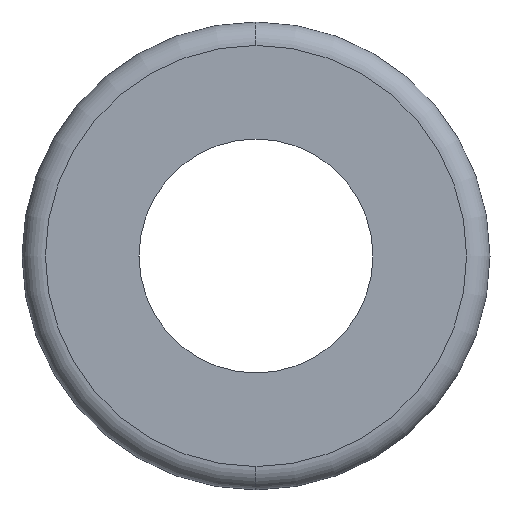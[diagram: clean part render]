
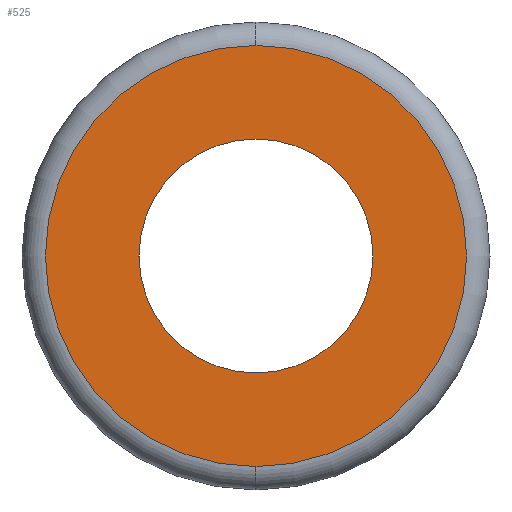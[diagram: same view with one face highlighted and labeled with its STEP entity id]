
A CAD part, left-side view. The second image highlights one B-rep face of the part: STEP entity #525.
In plain terms, the highlighted planar face has unit normal (-1, 0, 0).
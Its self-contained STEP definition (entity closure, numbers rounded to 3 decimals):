
#6 = DIRECTION ( 'NONE',  ( -1., 0., 0. ) ) ;
#10 = CARTESIAN_POINT ( 'NONE',  ( -7.5, 0., -2.5 ) ) ;
#14 = VERTEX_POINT ( 'NONE', #74 ) ;
#15 = AXIS2_PLACEMENT_3D ( 'NONE', #618, #385, #571 ) ;
#38 = EDGE_LOOP ( 'NONE', ( #175, #96 ) ) ;
#41 = AXIS2_PLACEMENT_3D ( 'NONE', #594, #109, #409 ) ;
#74 = CARTESIAN_POINT ( 'NONE',  ( -7.5, 0., 2.5 ) ) ;
#89 = CIRCLE ( 'NONE', #604, 2.5 ) ;
#96 = ORIENTED_EDGE ( 'NONE', *, *, #563, .T. ) ;
#109 = DIRECTION ( 'NONE',  ( 1., 0., 0. ) ) ;
#119 = VERTEX_POINT ( 'NONE', #295 ) ;
#129 = CARTESIAN_POINT ( 'NONE',  ( -7.5, 0., 0. ) ) ;
#146 = PLANE ( 'NONE',  #153 ) ;
#153 = AXIS2_PLACEMENT_3D ( 'NONE', #531, #6, #487 ) ;
#168 = ORIENTED_EDGE ( 'NONE', *, *, #248, .T. ) ;
#173 = EDGE_CURVE ( 'NONE', #605, #14, #89, .T. ) ;
#174 = DIRECTION ( 'NONE',  ( -1., 0., 0. ) ) ;
#175 = ORIENTED_EDGE ( 'NONE', *, *, #444, .T. ) ;
#189 = EDGE_LOOP ( 'NONE', ( #231, #168 ) ) ;
#231 = ORIENTED_EDGE ( 'NONE', *, *, #173, .T. ) ;
#248 = EDGE_CURVE ( 'NONE', #14, #605, #317, .T. ) ;
#278 = DIRECTION ( 'NONE',  ( 1., 0., 0. ) ) ;
#295 = CARTESIAN_POINT ( 'NONE',  ( -7.5, 0., -4.5 ) ) ;
#317 = CIRCLE ( 'NONE', #41, 2.5 ) ;
#320 = CARTESIAN_POINT ( 'NONE',  ( -7.5, 0., 0. ) ) ;
#345 = AXIS2_PLACEMENT_3D ( 'NONE', #320, #174, #414 ) ;
#385 = DIRECTION ( 'NONE',  ( -1., 0., 0. ) ) ;
#389 = CARTESIAN_POINT ( 'NONE',  ( -7.5, 0., 4.5 ) ) ;
#409 = DIRECTION ( 'NONE',  ( 0., 0., -1. ) ) ;
#414 = DIRECTION ( 'NONE',  ( 0., 0., 1. ) ) ;
#444 = EDGE_CURVE ( 'NONE', #463, #119, #552, .T. ) ;
#463 = VERTEX_POINT ( 'NONE', #389 ) ;
#485 = DIRECTION ( 'NONE',  ( 0., 0., -1. ) ) ;
#487 = DIRECTION ( 'NONE',  ( 0., 0., 1. ) ) ;
#505 = CIRCLE ( 'NONE', #15, 4.5 ) ;
#525 = ADVANCED_FACE ( 'NONE', ( #580, #620 ), #146, .T. ) ;
#531 = CARTESIAN_POINT ( 'NONE',  ( -7.5, 5., 0. ) ) ;
#552 = CIRCLE ( 'NONE', #345, 4.5 ) ;
#563 = EDGE_CURVE ( 'NONE', #119, #463, #505, .T. ) ;
#571 = DIRECTION ( 'NONE',  ( 0., 0., 1. ) ) ;
#580 = FACE_OUTER_BOUND ( 'NONE', #38, .T. ) ;
#594 = CARTESIAN_POINT ( 'NONE',  ( -7.5, 0., 0. ) ) ;
#604 = AXIS2_PLACEMENT_3D ( 'NONE', #129, #278, #485 ) ;
#605 = VERTEX_POINT ( 'NONE', #10 ) ;
#618 = CARTESIAN_POINT ( 'NONE',  ( -7.5, 0., 0. ) ) ;
#620 = FACE_BOUND ( 'NONE', #189, .T. ) ;
